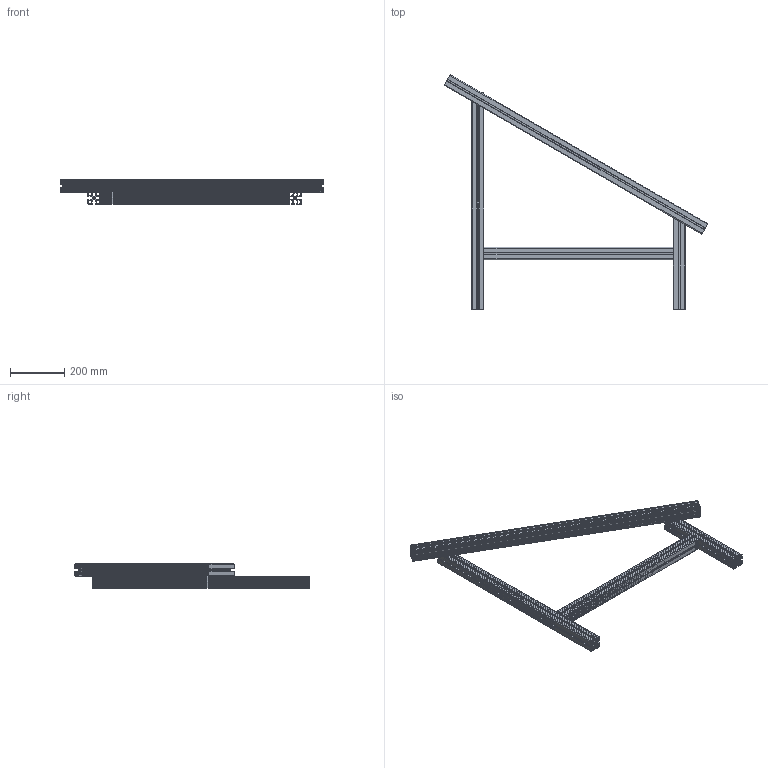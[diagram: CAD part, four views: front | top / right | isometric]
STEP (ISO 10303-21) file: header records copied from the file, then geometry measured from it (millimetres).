
FILE_DESCRIPTION (( 'STEP AP203' ), '1' );
FILE_NAME ('084.106.313.STEP', '2022-07-08T11:53:17', ( '' ), ( '' ), 'SwSTEP 2.0', 'SolidWorks 2021', '' );
FILE_SCHEMA (( 'CONFIG_CONTROL_DESIGN' ));
Length unit declared in the file: millimetre
Products named in the file (1): 084.106.313
Bounding box: 975.13 x 866.49 x 90 mm (x, y, z)
Volume: 1660223.7 mm3; surface area: 1671707.7 mm2
Topology: 4 solids, 4 shells, 556 faces, 1644 edges, 1096 vertices
Faces by surface type: plane 296, cylinder 260
Entity records: 18839 total; most frequent: CARTESIAN_POINT 3297, ORIENTED_EDGE 3288, DIRECTION 3278, EDGE_CURVE 1644, VECTOR 1124, LINE 1124, VERTEX_POINT 1096, AXIS2_PLACEMENT_3D 1077
